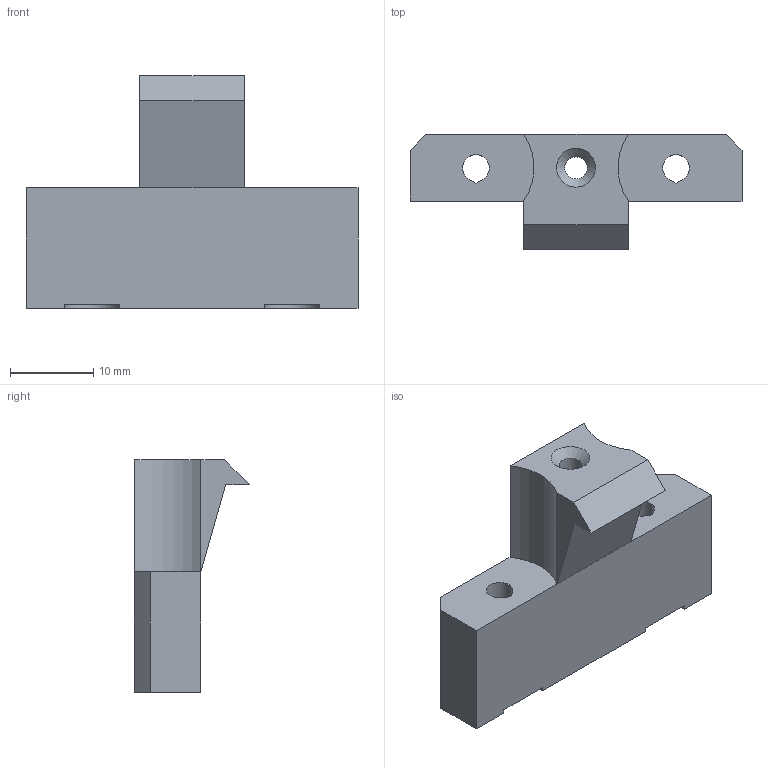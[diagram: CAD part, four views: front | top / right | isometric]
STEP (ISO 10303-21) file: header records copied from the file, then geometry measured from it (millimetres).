
FILE_DESCRIPTION(/* description */ ('CAx-IF Rec.Pracs.---Representation and Presentation of Product Manufacturing Information (PMI)---4.0---2014-10-13','CAx-IF Rec.Pracs.---3D Tessellated Geometry---0.4---2014-09-14','2;1'),/* implementation_level */ '2;1');
FILE_NAME(/* name */ 'Bereza 1 roller spacer',/* time_stamp */ '2025-06-16T17:41:38+03:00',/* author */ (''),/* organization */ (''),/* preprocessor_version */ 'ST-DEVELOPER v20',/* originating_system */ 'SIEMENS PLM Software NX2406.6001',/* authorisation */ $);
FILE_SCHEMA (('AP242_MANAGED_MODEL_BASED_3D_ENGINEERING_MIM_LF { 1 0 10303 442 3 1 4 }'));
Length unit declared in the file: millimetre
Products named in the file (1): Bereza 1 roller spacer
Bounding box: 40 x 13.86 x 28 mm (x, y, z)
Volume: 5673.3 mm3; surface area: 3188.4 mm2
Topology: 1 solids, 1 shells, 36 faces, 96 edges, 62 vertices
Faces by surface type: plane 25, cylinder 7, cone 4
Full cylindrical faces by diameter (mm): 2.7 x1
Entity records: 1127 total; most frequent: CARTESIAN_POINT 200, ORIENTED_EDGE 178, DIRECTION 177, EDGE_CURVE 89, LINE 67, VECTOR 67, VERTEX_POINT 60, AXIS2_PLACEMENT_3D 55
